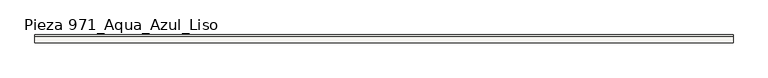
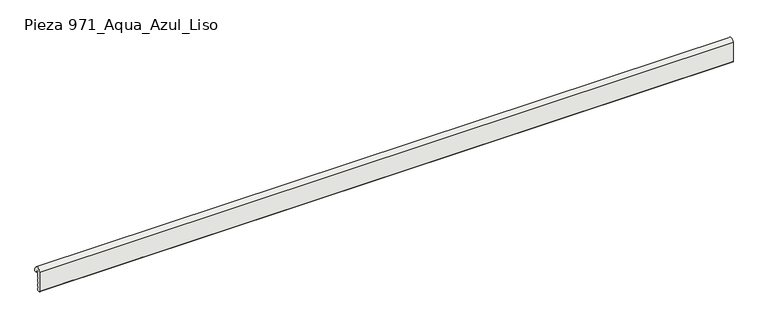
"""IFC4 building model written with IfcOpenShell, lengths in millimetres: slab geometry, ROSA GRES_971 : Pieza 971_Aqua_Azul_Liso."""

from ifc_helpers import new_model, si_unit, point, frame, frame_2d, origin, place, context, project, spatial, polyline, circle_curve, trimmed, segment, composite_curve, outline, extrude, source, transform, mapped, element, save


def pieza_971_aqua_azul_liso_258dba51(model_context):
    return source(origin(), model_context, "Body", "SweptSolid", [
        extrude(outline(composite_curve([segment(polyline([(31.1851409, 153.6242825), (39.9975962, 139.9882747), (39.9975962, 128.1510212), (28.5599154, 128.1510212), (22.7114874, 137.4414839)]), True, "CONTINUOUS"), segment(trimmed(circle_curve(frame_2d((18.761148, 135.3324983)), 4.4780578), [point((22.7114874, 137.4414839))], [point((14.3481673, 136.0931579))], True, "CARTESIAN"), True, "CONTINUOUS"), segment(polyline([(14.3481673, 136.0931579), (14.3481673, 113.5290116)]), True, "CONTINUOUS"), segment(trimmed(circle_curve(frame_2d((21.3613471, 107.0507801)), 9.5473648), [point((14.3481673, 113.5290116))], [point((14.9166636, 100.0067593))], True, "CARTESIAN"), True, "CONTINUOUS"), segment(polyline([(14.9166636, 100.0067593), (14.9166636, 88.7017059)]), True, "CONTINUOUS"), segment(trimmed(circle_curve(frame_2d((21.3511036, 81.7801218)), 9.450415), [point((14.9166636, 88.7017059))], [point((14.9614723, 74.8171516))], True, "CARTESIAN"), True, "CONTINUOUS"), segment(polyline([(14.9614723, 74.8171516), (14.9614723, 63.5120982)]), True, "CONTINUOUS"), segment(trimmed(circle_curve(frame_2d((21.3959123, 56.5905141)), 9.450415), [point((14.9614723, 63.5120982))], [point((15.0062809, 49.6275439))], True, "CARTESIAN"), True, "CONTINUOUS"), segment(polyline([(15.0062809, 49.6275439), (15.0062809, 41.3450913), (2.68, 41.3450913)]), True, "CONTINUOUS"), segment(trimmed(circle_curve(frame_2d((2.68, 44.0250913)), 2.68), [point((2.68, 41.3450913))], [point((0.0, 44.0250913))], False, "CARTESIAN"), True, "CONTINUOUS"), segment(polyline([(0.0, 44.0250913), (0.0, 146.1331033)]), True, "CONTINUOUS"), segment(trimmed(circle_curve(frame_2d((16.8529233, 144.6319512)), 16.9196478), [point((0.0, 146.1331033))], [point((31.1851409, 153.6242825))], False, "CARTESIAN"), True, "CONTINUOUS")], self_intersect=False)), frame((0.0, 0.0, 0.0), z_axis=(1.0, 0.0, 0.0), x_axis=(0.0, 1.0, 0.0)), (0.0, 0.0, 1.0), 3472.0982424),
    ])


if __name__ == "__main__":
    model = new_model("IFC4")
    model_context = context("Model", 3, world=origin())
    ifc_project = project(units=[si_unit("LENGTHUNIT", "METRE", prefix="MILLI")], contexts=[model_context])
    site = spatial("IfcSite", under=ifc_project)
    building = spatial("IfcBuilding", under=site)
    placement = place(None, origin())
    pieza_971_aqua_azul_liso_shape = pieza_971_aqua_azul_liso_258dba51(model_context)
    element("IfcSlab", 1, ObjectType="ROSA GRES_971 : Pieza 971_Aqua_Azul_Liso", at=placement, inside=building, context=model_context, shape_type="MappedRepresentation", body=[
        mapped(pieza_971_aqua_azul_liso_shape, transform((0.0, 0.0, 0.0), x_axis=(1.0, 0.0, 0.0), y_axis=(0.0, 1.0, 0.0), z_axis=(0.0, 0.0, 1.0))),
    ])
    save(model, "model.ifc")
